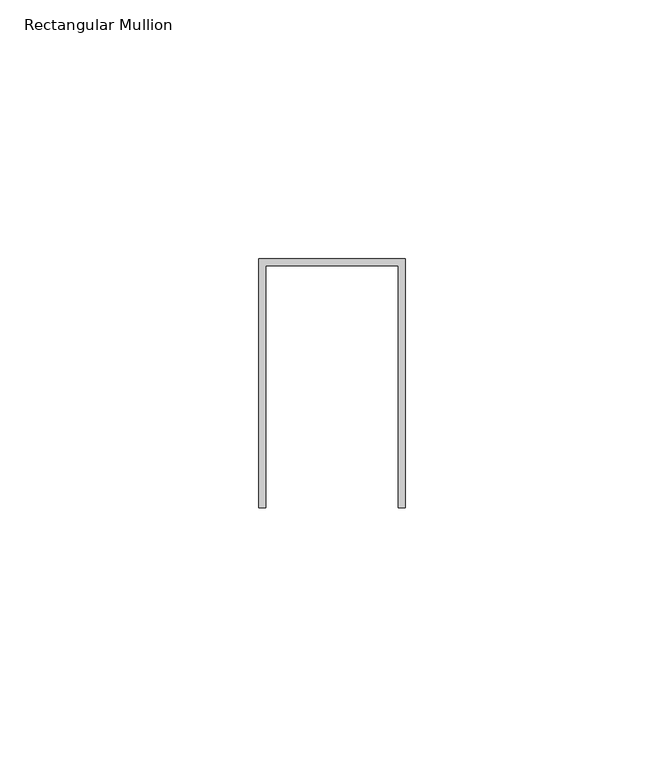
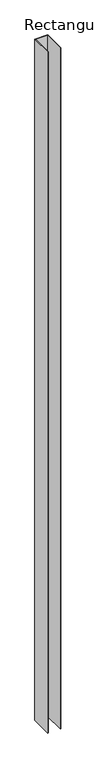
"""IFC4 building model written with IfcOpenShell, lengths in millimetres: member geometry, Rectangular Mullion : Danpal_NM_InetrnalV-Mullion."""

from ifc_helpers import new_model, si_unit, frame, origin, place, context, project, spatial, polyline, outline, extrude, source, transform, mapped, element, save


def rectangular_mullion_af7c33be(model_context):
    return source(origin(), model_context, "Body", "SweptSolid", [
        extrude(outline(polyline([(12.3125928, 60.8367315), (-13.3125928, 60.8367315), (-13.3125928, 14.0043433), (-14.6380334, 14.0043036), (-14.6380334, 62.1621721), (13.6380334, 62.1621721), (13.6380334, 14.0044958), (12.3125928, 14.0044958), (12.3125928, 60.8367315)])), frame((0.0, 0.0, -1564.2328296), z_axis=(0.0, 0.0, 1.0), x_axis=(1.0, 0.0, 0.0)), (0.0, 0.0, 1.0), 1564.2328296),
    ])


if __name__ == "__main__":
    model = new_model("IFC4")
    model_context = context("Model", 3, world=origin())
    ifc_project = project(units=[si_unit("LENGTHUNIT", "METRE", prefix="MILLI")], contexts=[model_context])
    site = spatial("IfcSite", under=ifc_project)
    building = spatial("IfcBuilding", under=site)
    placement = place(None, origin())
    rectangular_mullion_shape = rectangular_mullion_af7c33be(model_context)
    element("IfcMember", 1, ObjectType="Rectangular Mullion : Danpal_NM_InetrnalV-Mullion", at=placement, inside=building, context=model_context, shape_type="MappedRepresentation", body=[
        mapped(rectangular_mullion_shape, transform((0.0, 0.0, 0.0), x_axis=(1.0, 0.0, 0.0), y_axis=(0.0, 1.0, 0.0), z_axis=(0.0, 0.0, 1.0))),
    ])
    save(model, "model.ifc")
